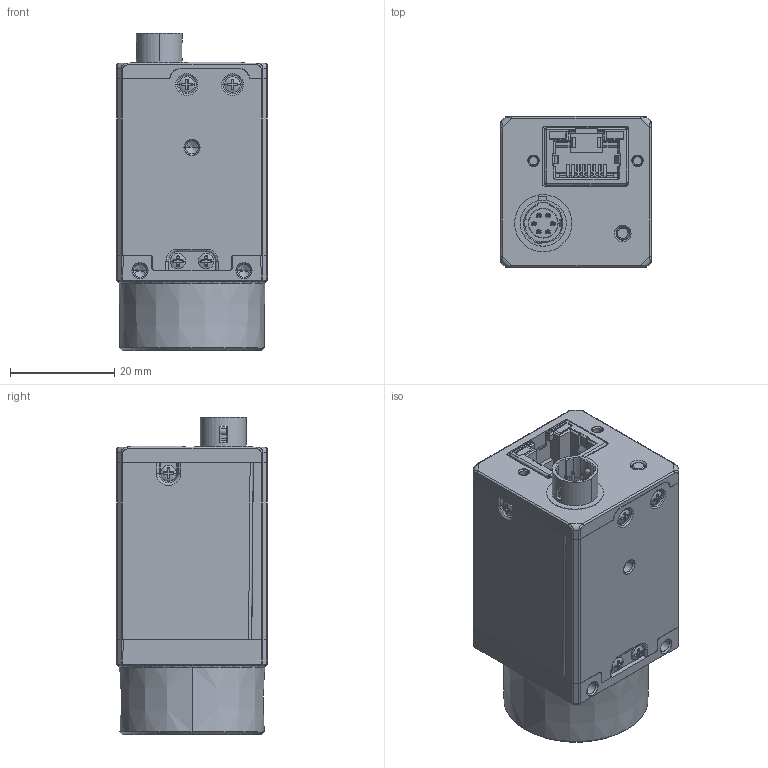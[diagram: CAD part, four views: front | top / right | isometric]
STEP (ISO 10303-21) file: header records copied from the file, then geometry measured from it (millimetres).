
FILE_DESCRIPTION((''),'2;1');
FILE_NAME('00-CUG_GK_ASM','2024-12-25T20:56:53',('zhangqianwen8'),(''),'CREO PARAMETRIC BY PTC INC, 2020044','CREO PARAMETRIC BY PTC INC, 2020044','');
FILE_SCHEMA(('CONFIG_CONTROL_DESIGN'));
Products named in the file (16): 102200787; D-01-35-26-0007_6; DE-13-002304; CU0001_ASM; 101305700; MV-23041REV10-IO_ASM; 101306454; MV-23041REV10-LAN_ASM; MV23041REV10_ASM; D-01-35-26-0837; DE-11-012833-90; DE-13-002468; DE-13-000605; CU0002_ASM; SC_T1M2X3B_2; 00-CUG_GK_ASM
Assembly tree (23 placements, depth 5):
  00-CUG_GK_ASM
    CU0001_ASM
      102200787
      D-01-35-26-0007_6
      DE-13-002304
    CU0002_ASM
      MV23041REV10_ASM
        MV-23041REV10-IO_ASM
          101305700
        MV-23041REV10-LAN_ASM
          101306454
      D-01-35-26-0837
      DE-11-012833-90
      DE-13-002468
      DE-13-000605
    SC_T1M2X3B_2  x9
Bounding box: 29 x 29 x 60.99 mm (x, y, z)
Volume: 20021.9 mm3; surface area: 27920.9 mm2
Topology: 22 solids, 65 shells, 3725 faces, 10231 edges, 6568 vertices
Faces by surface type: plane 1734, cylinder 871, bspline 572, cone 302, torus 207, sphere 26, extrusion 13
Entity records: 124402 total; most frequent: CARTESIAN_POINT 49594, ORIENTED_EDGE 16687, DIRECTION 13694, EDGE_CURVE 8446, VERTEX_POINT 5464, VECTOR 4890, LINE 4877, AXIS2_PLACEMENT_3D 4402
